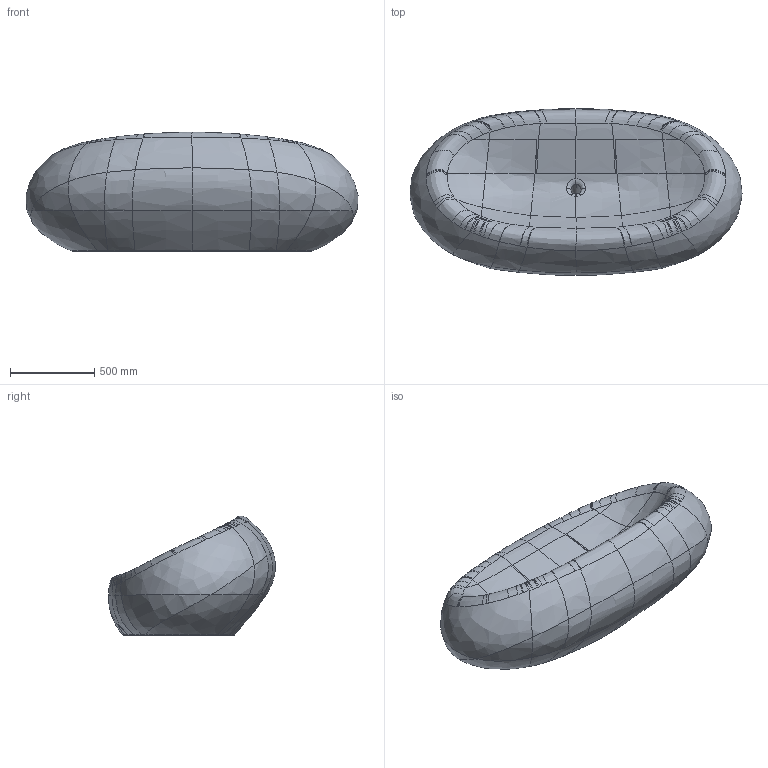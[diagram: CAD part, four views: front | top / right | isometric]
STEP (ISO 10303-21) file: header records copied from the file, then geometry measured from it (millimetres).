
FILE_DESCRIPTION(('CATIA V5 STEP Exchange','CAx-IF Rec.Pracs.--- Model Styling and Organization---1.5--- 2016-08-15','CAx-IF Rec.Pracs.---Supplemental Geometry---1.0---2011-11-01','CAx-IF Rec.Pracs.--- Composite Materials ---3.4---2017-06-13','CAx-IF Rec.Pracs.---Tessellated 3D Geometry---1.0---2015-12-17'),'2;1');
FILE_NAME('C:\Users\samatori\Desktop\File-3D\BOOM-SOFA.stp','2023-04-04T07:01:36+00:00',('none'),('none'),'CATIA Version 5-6 Release 2020 SP3','CATIA V5 STEP AP242 v2','none');
FILE_SCHEMA(('AP242_MANAGED_MODEL_BASED_3D_ENGINEERING_MIM_LF {1 0 10303 442 1 1 4}'));
Products named in the file (1): Part3
Bounding box: 1975.9 x 994.28 x 712.09 mm (x, y, z)
Volume: 619141038.5 mm3; surface area: 5184237.9 mm2
Topology: 1 solids, 1 shells, 528 faces, 1249 edges, 735 vertices
Faces by surface type: bspline 422, torus 36, cylinder 22, extrusion 20, plane 16, revolution 8, cone 4
Entity records: 80557 total; most frequent: CARTESIAN_POINT 72069, ORIENTED_EDGE 2498, EDGE_CURVE 1249, B_SPLINE_CURVE_WITH_KNOTS 1121, VERTEX_POINT 735, EDGE_LOOP 542, ADVANCED_FACE 528, FACE_OUTER_BOUND 528
